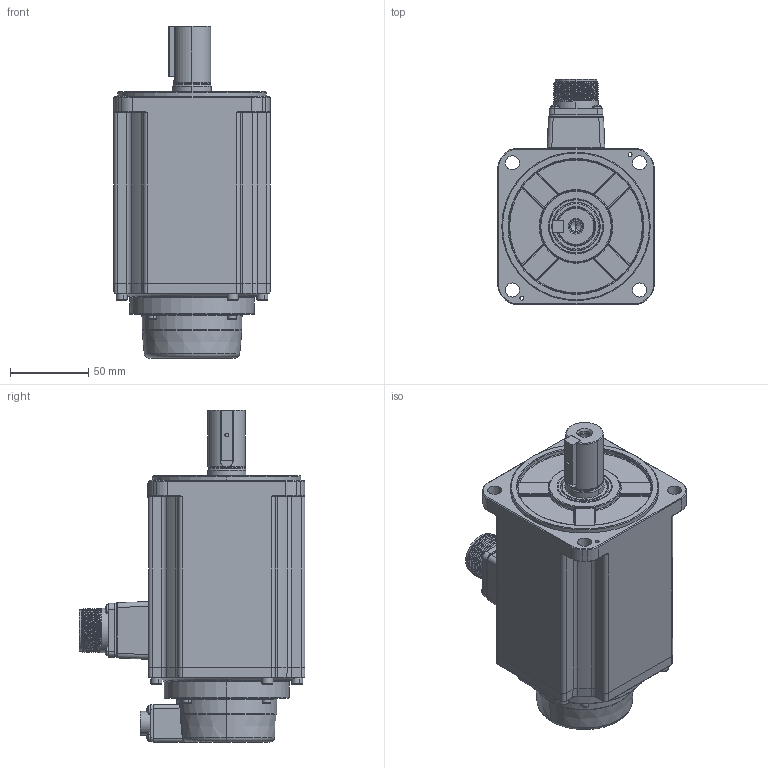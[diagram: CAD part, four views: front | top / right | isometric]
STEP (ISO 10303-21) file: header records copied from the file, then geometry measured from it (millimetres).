
FILE_DESCRIPTION (( 'STEP AP214' ), '1' );
FILE_NAME ('RSK1-S-100-2kw.STEP', '2024-08-22T06:49:18', ( '' ), ( '' ), 'SwSTEP 2.0', 'SolidWorks 2020', '' );
FILE_SCHEMA (( 'AUTOMOTIVE_DESIGN' ));
Length unit declared in the file: millimetre
Products named in the file (14): 100-S-24粣噤; 蚐猾_TC25x35x5; 100-梓袧綴傷裔; す瑩_B8x7x32; 130梓袧綴裔; 坋趼羞攫芛蹟隊_M3x30; 内六角圆柱头和平垫圈组合螺钉_M3x16; 内六角圆柱头螺钉_M4x16; 4140000005_电机内部编码器线_7x26AWG(0.1m-CMV1-10芯螺纹插座_GACJ3045); ﾊｮﾗﾖｲﾛﾅﾌﾍｷﾗﾔｼｷﾂﾝｶ､_M3x8; 雄薯瑤脣; RSK1-S-100-2kw; 130雄薯瑤脣價釱; 100-S-2kw儂褲
Assembly tree (25 placements, depth 2):
  RSK1-S-100-2kw
    100-S-2kw儂褲
    100-梓袧綴傷裔
    坋趼羞攫芛蹟隊_M3x30  x4
    130雄薯瑤脣價釱
    雄薯瑤脣
    内六角圆柱头螺钉_M4x16  x4
    130梓袧綴裔
    4140000005_电机内部编码器线_7x26AWG(0.1m-CMV1-10芯螺纹插座_GACJ3045)
    ﾊｮﾗﾖｲﾛﾅﾌﾍｷﾗﾔｼｷﾂﾝｶ､_M3x8  x4
    内六角圆柱头和平垫圈组合螺钉_M3x16  x4
    100-S-24粣噤
    す瑩_B8x7x32
    蚐猾_TC25x35x5
Bounding box: 100 x 144.4 x 212.4 mm (x, y, z)
Volume: 1332475.9 mm3; surface area: 149883.8 mm2
Topology: 35 solids, 35 shells, 2542 faces, 6328 edges, 3941 vertices
Faces by surface type: plane 1233, cylinder 653, cone 290, torus 174, bspline 132, sphere 60
Entity records: 92903 total; most frequent: CARTESIAN_POINT 24171, DIRECTION 10968, ORIENTED_EDGE 10960, EDGE_CURVE 5480, AXIS2_PLACEMENT_3D 3836, VERTEX_POINT 3455, VECTOR 3296, LINE 3296
